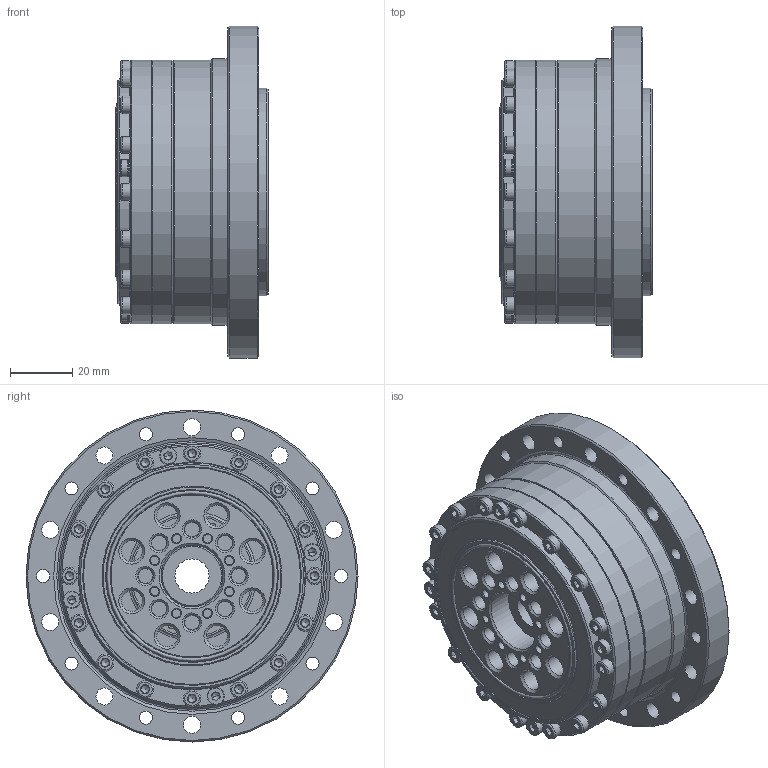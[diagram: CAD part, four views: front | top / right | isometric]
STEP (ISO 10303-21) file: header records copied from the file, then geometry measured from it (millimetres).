
FILE_DESCRIPTION(/* description */ (''),/* implementation_level */ '2;1');
FILE_NAME(/* name */ 'Getriebeset_CTG_Plus_BG63_HS.stp',/* time_stamp */ '2026-03-10T14:15:43+01:00',/* author */ (''),/* organization */ (''),/* preprocessor_version */ 'ST-DEVELOPER v19.4',/* originating_system */ 'SIEMENS PLM Software NX2212.9120',/* authorisation */ '');
FILE_SCHEMA (('AUTOMOTIVE_DESIGN { 1 0 10303 214 3 1 1 1 }'));
Length unit declared in the file: millimetre
Products named in the file (1): Getriebeset_CTG_Plus_BG63_HS
Bounding box: 49.3 x 107 x 107 mm (x, y, z)
Volume: 194710.7 mm3; surface area: 131498.3 mm2
Topology: 115 solids, 115 shells, 1502 faces, 3305 edges, 2040 vertices
Faces by surface type: plane 530, cone 387, cylinder 347, torus 201, sphere 35, bspline 2
Full cylindrical faces by diameter (mm): 2.5 x20, 2.6 x2, 2.8 x8, 3 x28, 3.2 x8, 3.6 x36, 4 x48, 4.2 x10, 5 x16, 5.3 x4, 5.5 x30, 6 x8, 6.6 x24, 6.8 x8, 10 x8, 11 x1, 20 x4, 27 x1, 40 x2, 42 x2, 45 x2, 48.2 x1, 48.5 x2, 52.5 x1, 53.253 x1, 55.4 x1, 55.8 x1, 58 x2, 58.1 x2, 61 x2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
Entity records: 40381 total; most frequent: CARTESIAN_POINT 10713, DIRECTION 6170, ORIENTED_EDGE 4472, AXIS2_PLACEMENT_3D 2851, EDGE_LOOP 2526, EDGE_CURVE 2236, FACE_BOUND 1957, VERTEX_POINT 1795
